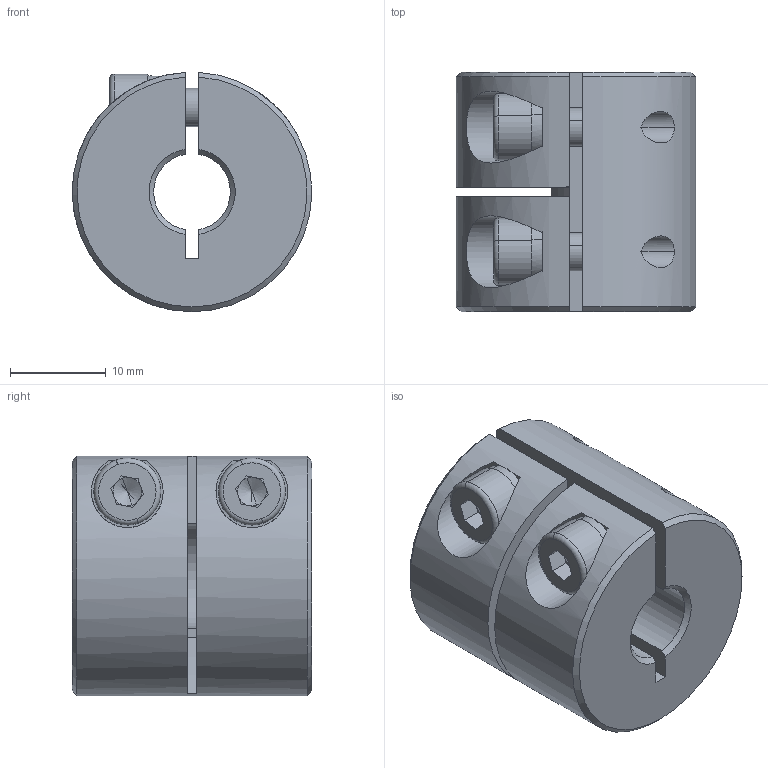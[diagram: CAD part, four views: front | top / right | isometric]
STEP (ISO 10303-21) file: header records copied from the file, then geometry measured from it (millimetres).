
FILE_DESCRIPTION (( 'STEP AP203' ), '1' );
FILE_NAME ('LL-B-D25L25-8-11.STEP', '2021-11-05T06:38:03', ( '' ), ( '' ), 'SwSTEP 2.0', 'SolidWorks 2018', '' );
FILE_SCHEMA (( 'CONFIG_CONTROL_DESIGN' ));
Length unit declared in the file: millimetre
Products named in the file (1): LL-B-D25L25-8-11
Bounding box: 24.99 x 25 x 24.98 mm (x, y, z)
Volume: 9713.6 mm3; surface area: 4943.5 mm2
Topology: 1 solids, 1 shells, 104 faces, 270 edges, 170 vertices
Faces by surface type: plane 52, cylinder 37, cone 11, torus 4
Entity records: 3471 total; most frequent: CARTESIAN_POINT 815, DIRECTION 560, ORIENTED_EDGE 532, EDGE_CURVE 266, AXIS2_PLACEMENT_3D 215, VERTEX_POINT 170, VECTOR 130, LINE 130
